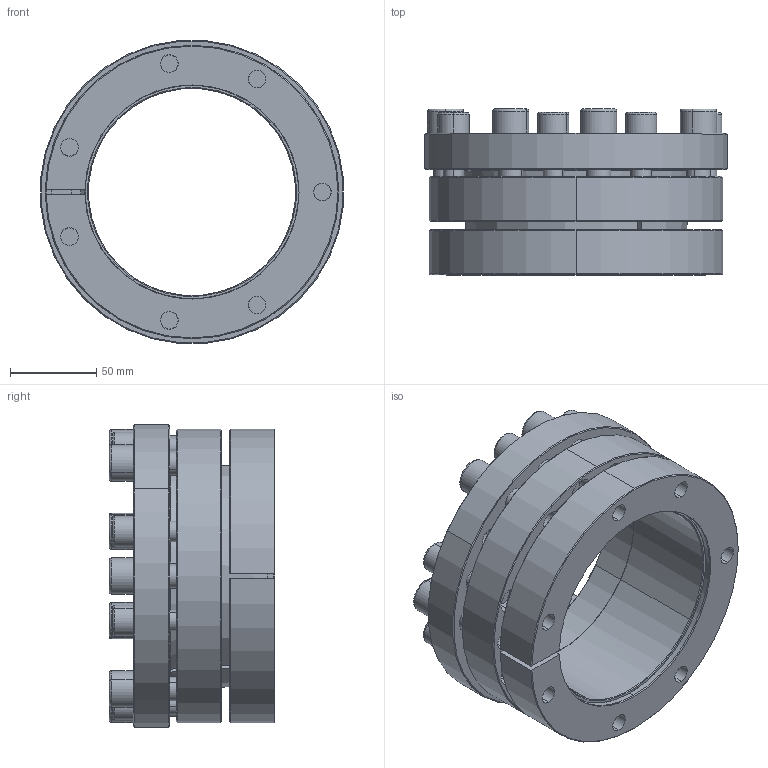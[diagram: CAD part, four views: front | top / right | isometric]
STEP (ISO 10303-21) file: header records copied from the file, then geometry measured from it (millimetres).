
FILE_DESCRIPTION (( 'STEP AP214' ), '1' );
FILE_NAME ('CONEX-P-120x170-P-029.step', '2015-11-30T21:13:20', ( '' ), ( '' ), 'SwSTEP 2.0', 'SolidWorks 2013', '' );
FILE_SCHEMA (( 'AUTOMOTIVE_DESIGN' ));
Length unit declared in the file: millimetre
Products named in the file (1): CONEX-P-120x170-P-029
Bounding box: 175.33 x 96 x 175.33 mm (x, y, z)
Volume: 875005.8 mm3; surface area: 249083.2 mm2
Topology: 17 solids, 17 shells, 545 faces, 1271 edges, 761 vertices
Faces by surface type: plane 231, cylinder 153, cone 103, torus 58
Entity records: 22337 total; most frequent: CARTESIAN_POINT 3422, DIRECTION 2842, ORIENTED_EDGE 2486, EDGE_CURVE 1243, AXIS2_PLACEMENT_3D 1137, VERTEX_POINT 761, EDGE_LOOP 652, CIRCLE 591
